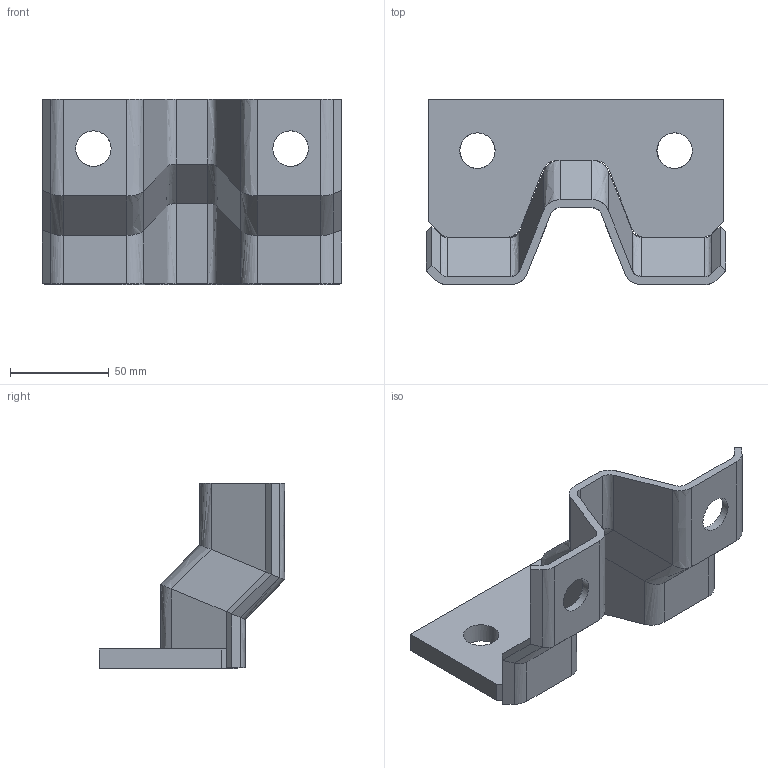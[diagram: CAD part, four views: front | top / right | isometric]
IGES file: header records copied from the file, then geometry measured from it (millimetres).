
Global section: file name: B125W100; native system: Autodesk RealDWG; preprocessor: Autodesk Translation Framework DWG producer (atf_dwg_producer); organization: unknown; date: 20230703.102940; units: centimetre
Bounding box: 151.72 x 94 x 94 mm (x, y, z)
Volume: 161823 mm3; surface area: 63822 mm2
Topology: 1 solids, 1 shells, 108 faces, 270 edges, 160 vertices
Faces by surface type: bspline 108
